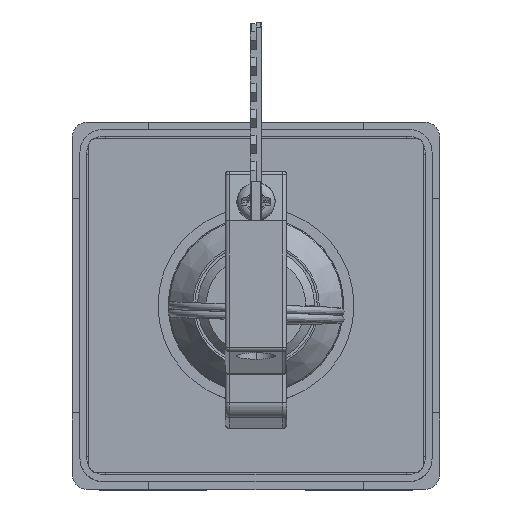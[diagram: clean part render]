
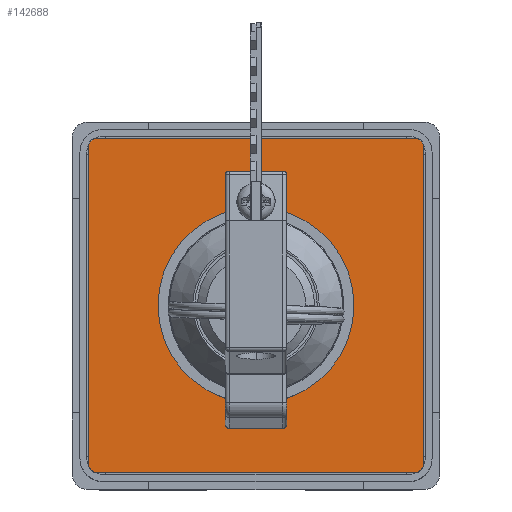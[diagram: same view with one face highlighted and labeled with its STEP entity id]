
A CAD part, top view. The second image highlights one B-rep face of the part: STEP entity #142688.
In plain terms, the highlighted planar face has unit normal (0, 0, 1).
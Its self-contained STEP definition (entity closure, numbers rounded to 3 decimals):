
#1878 = DIRECTION ( 'NONE',  ( -1., 0., 0. ) ) ;
#2499 = EDGE_CURVE ( 'NONE', #11067, #71888, #25479, .T. ) ;
#3151 = EDGE_CURVE ( 'NONE', #126166, #159017, #190743, .T. ) ;
#3161 = VERTEX_POINT ( 'NONE', #126014 ) ;
#6145 = AXIS2_PLACEMENT_3D ( 'NONE', #39850, #85505, #11268 ) ;
#6417 = ORIENTED_EDGE ( 'NONE', *, *, #162389, .F. ) ;
#11067 = VERTEX_POINT ( 'NONE', #27819 ) ;
#11076 = CARTESIAN_POINT ( 'NONE',  ( -14.489, 16.739, -89.832 ) ) ;
#11268 = DIRECTION ( 'NONE',  ( -1., 0., 0. ) ) ;
#11911 = EDGE_CURVE ( 'NONE', #3161, #126166, #160631, .T. ) ;
#16640 = CARTESIAN_POINT ( 'NONE',  ( -15.489, 15.739, -89.832 ) ) ;
#20019 = CARTESIAN_POINT ( 'NONE',  ( -14.489, -25.961, -89.832 ) ) ;
#25479 = LINE ( 'NONE', #171299, #58808 ) ;
#27558 = VERTEX_POINT ( 'NONE', #86977 ) ;
#27819 = CARTESIAN_POINT ( 'NONE',  ( 28.211, 15.739, -89.832 ) ) ;
#34362 = AXIS2_PLACEMENT_3D ( 'NONE', #41194, #55789, #161697 ) ;
#35734 = EDGE_CURVE ( 'NONE', #159017, #27558, #101923, .T. ) ;
#39850 = CARTESIAN_POINT ( 'NONE',  ( 6.361, -5.111, -89.832 ) ) ;
#40407 = EDGE_LOOP ( 'NONE', ( #84319, #93583 ) ) ;
#41194 = CARTESIAN_POINT ( 'NONE',  ( 6.361, -5.111, -89.832 ) ) ;
#42213 = EDGE_CURVE ( 'NONE', #103147, #186910, #112591, .T. ) ;
#50529 = DIRECTION ( 'NONE',  ( 0., 0., -1. ) ) ;
#52183 = EDGE_CURVE ( 'NONE', #142411, #73443, #170232, .T. ) ;
#55164 = CARTESIAN_POINT ( 'NONE',  ( 27.211, -26.961, -89.832 ) ) ;
#55789 = DIRECTION ( 'NONE',  ( 0., 0., -1. ) ) ;
#58808 = VECTOR ( 'NONE', #81935, 1000. ) ;
#60745 = EDGE_CURVE ( 'NONE', #186910, #3161, #149321, .T. ) ;
#61326 = AXIS2_PLACEMENT_3D ( 'NONE', #92523, #183893, #1878 ) ;
#63974 = VECTOR ( 'NONE', #104077, 1000. ) ;
#67526 = CIRCLE ( 'NONE', #170365, 1. ) ;
#71888 = VERTEX_POINT ( 'NONE', #109288 ) ;
#72425 = CARTESIAN_POINT ( 'NONE',  ( -14.489, -26.961, -89.832 ) ) ;
#73443 = VERTEX_POINT ( 'NONE', #139336 ) ;
#75646 = EDGE_CURVE ( 'NONE', #73443, #142411, #194170, .T. ) ;
#78461 = CARTESIAN_POINT ( 'NONE',  ( -14.489, 15.739, -89.832 ) ) ;
#81935 = DIRECTION ( 'NONE',  ( 0., -1., 0. ) ) ;
#84319 = ORIENTED_EDGE ( 'NONE', *, *, #52183, .T. ) ;
#85505 = DIRECTION ( 'NONE',  ( 0., 0., -1. ) ) ;
#86977 = CARTESIAN_POINT ( 'NONE',  ( 27.211, 16.739, -89.832 ) ) ;
#92523 = CARTESIAN_POINT ( 'NONE',  ( 27.211, 15.739, -89.832 ) ) ;
#93345 = ORIENTED_EDGE ( 'NONE', *, *, #2499, .F. ) ;
#93583 = ORIENTED_EDGE ( 'NONE', *, *, #75646, .T. ) ;
#94166 = DIRECTION ( 'NONE',  ( -1., 0., 0. ) ) ;
#94639 = AXIS2_PLACEMENT_3D ( 'NONE', #20019, #50529, #94166 ) ;
#95724 = ORIENTED_EDGE ( 'NONE', *, *, #60745, .F. ) ;
#96913 = CARTESIAN_POINT ( 'NONE',  ( -15.489, 15.739, -89.832 ) ) ;
#97260 = AXIS2_PLACEMENT_3D ( 'NONE', #195790, #136115, #166621 ) ;
#98837 = AXIS2_PLACEMENT_3D ( 'NONE', #78461, #110132, #111392 ) ;
#101377 = DIRECTION ( 'NONE',  ( -1., 0., 0. ) ) ;
#101923 = LINE ( 'NONE', #178343, #63974 ) ;
#103147 = VERTEX_POINT ( 'NONE', #187132 ) ;
#104077 = DIRECTION ( 'NONE',  ( 1., 0., 0. ) ) ;
#106049 = VECTOR ( 'NONE', #141924, 1000. ) ;
#109288 = CARTESIAN_POINT ( 'NONE',  ( 28.211, -25.961, -89.832 ) ) ;
#110132 = DIRECTION ( 'NONE',  ( 0., 0., -1. ) ) ;
#111392 = DIRECTION ( 'NONE',  ( -1., 0., 0. ) ) ;
#112591 = LINE ( 'NONE', #55164, #117407 ) ;
#113362 = FACE_BOUND ( 'NONE', #40407, .T. ) ;
#115012 = CARTESIAN_POINT ( 'NONE',  ( -6.439, -5.111, -89.832 ) ) ;
#117096 = ORIENTED_EDGE ( 'NONE', *, *, #35734, .F. ) ;
#117407 = VECTOR ( 'NONE', #101377, 1000. ) ;
#122975 = PLANE ( 'NONE',  #61326 ) ;
#126014 = CARTESIAN_POINT ( 'NONE',  ( -15.489, -25.961, -89.832 ) ) ;
#126166 = VERTEX_POINT ( 'NONE', #16640 ) ;
#126435 = CIRCLE ( 'NONE', #97260, 1. ) ;
#127249 = ORIENTED_EDGE ( 'NONE', *, *, #3151, .F. ) ;
#132377 = FACE_OUTER_BOUND ( 'NONE', #141356, .T. ) ;
#134712 = CARTESIAN_POINT ( 'NONE',  ( 27.211, -25.961, -89.832 ) ) ;
#136115 = DIRECTION ( 'NONE',  ( 0., 0., -1. ) ) ;
#139336 = CARTESIAN_POINT ( 'NONE',  ( 19.161, -5.111, -89.832 ) ) ;
#141356 = EDGE_LOOP ( 'NONE', ( #6417, #117096, #127249, #187173, #95724, #191501, #173729, #93345 ) ) ;
#141924 = DIRECTION ( 'NONE',  ( 0., 1., 0. ) ) ;
#142411 = VERTEX_POINT ( 'NONE', #115012 ) ;
#142688 = ADVANCED_FACE ( 'NONE', ( #113362, #132377 ), #122975, .F. ) ;
#147996 = DIRECTION ( 'NONE',  ( -1., 0., 0. ) ) ;
#148218 = EDGE_CURVE ( 'NONE', #71888, #103147, #67526, .T. ) ;
#149321 = CIRCLE ( 'NONE', #94639, 1. ) ;
#159017 = VERTEX_POINT ( 'NONE', #11076 ) ;
#160631 = LINE ( 'NONE', #96913, #106049 ) ;
#161697 = DIRECTION ( 'NONE',  ( -1., 0., 0. ) ) ;
#162389 = EDGE_CURVE ( 'NONE', #27558, #11067, #126435, .T. ) ;
#166621 = DIRECTION ( 'NONE',  ( -1., 0., 0. ) ) ;
#170232 = CIRCLE ( 'NONE', #34362, 12.8 ) ;
#170365 = AXIS2_PLACEMENT_3D ( 'NONE', #134712, #181112, #147996 ) ;
#171299 = CARTESIAN_POINT ( 'NONE',  ( 28.211, 15.739, -89.832 ) ) ;
#173729 = ORIENTED_EDGE ( 'NONE', *, *, #148218, .F. ) ;
#178343 = CARTESIAN_POINT ( 'NONE',  ( 27.211, 16.739, -89.832 ) ) ;
#181112 = DIRECTION ( 'NONE',  ( 0., 0., -1. ) ) ;
#183893 = DIRECTION ( 'NONE',  ( 0., 0., -1. ) ) ;
#186910 = VERTEX_POINT ( 'NONE', #72425 ) ;
#187132 = CARTESIAN_POINT ( 'NONE',  ( 27.211, -26.961, -89.832 ) ) ;
#187173 = ORIENTED_EDGE ( 'NONE', *, *, #11911, .F. ) ;
#190743 = CIRCLE ( 'NONE', #98837, 1. ) ;
#191501 = ORIENTED_EDGE ( 'NONE', *, *, #42213, .F. ) ;
#194170 = CIRCLE ( 'NONE', #6145, 12.8 ) ;
#195790 = CARTESIAN_POINT ( 'NONE',  ( 27.211, 15.739, -89.832 ) ) ;
